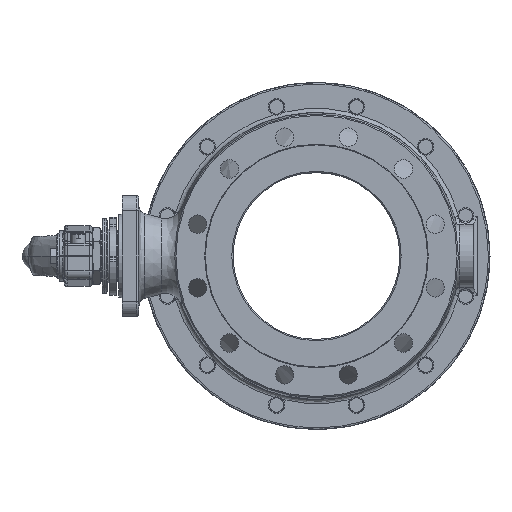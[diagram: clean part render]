
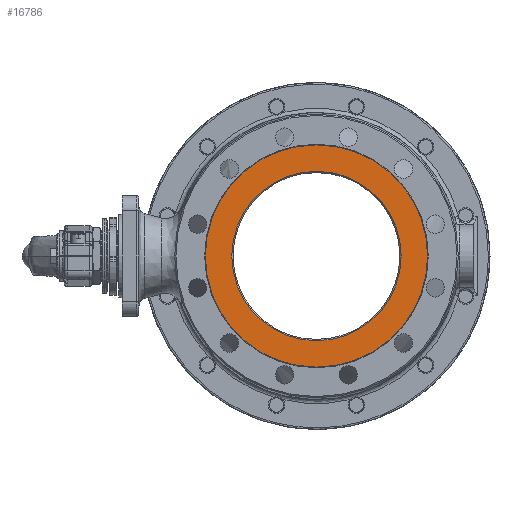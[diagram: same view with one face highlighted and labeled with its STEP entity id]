
A CAD part, left-side view. The second image highlights one B-rep face of the part: STEP entity #16786.
In plain terms, the highlighted planar face has unit normal (-1, 0, 0) as drawn and (0, -1, 0) by its records, which use the part's own axes.
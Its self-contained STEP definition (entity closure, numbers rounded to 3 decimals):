
#375 = DIRECTION ( 'NONE',  ( 0., 1., 0. ) ) ;
#1141 = EDGE_CURVE ( 'NONE', #11809, #8994, #22768, .T. ) ;
#3302 = DIRECTION ( 'NONE',  ( 0., 0., -1. ) ) ;
#3304 = DIRECTION ( 'NONE',  ( 0., 1., 0. ) ) ;
#3336 = FACE_OUTER_BOUND ( 'NONE', #38008, .T. ) ;
#5301 = ORIENTED_EDGE ( 'NONE', *, *, #1141, .T. ) ;
#6448 = CARTESIAN_POINT ( 'NONE',  ( 0., -136.25, -14.5 ) ) ;
#6545 = EDGE_CURVE ( 'NONE', #8994, #11809, #10112, .T. ) ;
#8994 = VERTEX_POINT ( 'NONE', #32513 ) ;
#9708 = DIRECTION ( 'NONE',  ( 0., 0., -1. ) ) ;
#10112 = CIRCLE ( 'NONE', #40537, 101.5 ) ;
#10358 = DIRECTION ( 'NONE',  ( -1., 0., 0. ) ) ;
#10607 = FACE_BOUND ( 'NONE', #27734, .T. ) ;
#11809 = VERTEX_POINT ( 'NONE', #14830 ) ;
#12700 = VERTEX_POINT ( 'NONE', #12816 ) ;
#12816 = CARTESIAN_POINT ( 'NONE',  ( 133.196, -136.25, -14.5 ) ) ;
#14830 = CARTESIAN_POINT ( 'NONE',  ( 0., -136.25, 87. ) ) ;
#15939 = VERTEX_POINT ( 'NONE', #33666 ) ;
#16218 = DIRECTION ( 'NONE',  ( 0., -1., 0. ) ) ;
#16786 = ADVANCED_FACE ( 'NONE', ( #10607, #3336 ), #26403, .T. ) ;
#18095 = ORIENTED_EDGE ( 'NONE', *, *, #19218, .F. ) ;
#19218 = EDGE_CURVE ( 'NONE', #12700, #15939, #36958, .T. ) ;
#22501 = ORIENTED_EDGE ( 'NONE', *, *, #33444, .F. ) ;
#22768 = CIRCLE ( 'NONE', #41817, 101.5 ) ;
#22861 = CARTESIAN_POINT ( 'NONE',  ( 0., -136.25, -14.5 ) ) ;
#23143 = DIRECTION ( 'NONE',  ( 0., 1., 0. ) ) ;
#23260 = CIRCLE ( 'NONE', #35103, 133.196 ) ;
#23690 = CARTESIAN_POINT ( 'NONE',  ( 0., -136.25, -14.5 ) ) ;
#26403 = PLANE ( 'NONE',  #26659 ) ;
#26659 = AXIS2_PLACEMENT_3D ( 'NONE', #39414, #16218, #9708 ) ;
#27734 = EDGE_LOOP ( 'NONE', ( #27954, #5301 ) ) ;
#27954 = ORIENTED_EDGE ( 'NONE', *, *, #6545, .T. ) ;
#32513 = CARTESIAN_POINT ( 'NONE',  ( 0., -136.25, -116. ) ) ;
#33444 = EDGE_CURVE ( 'NONE', #15939, #12700, #23260, .T. ) ;
#33666 = CARTESIAN_POINT ( 'NONE',  ( -133.196, -136.25, -14.5 ) ) ;
#35103 = AXIS2_PLACEMENT_3D ( 'NONE', #22861, #3304, #35933 ) ;
#35646 = CARTESIAN_POINT ( 'NONE',  ( 0., -136.25, -14.5 ) ) ;
#35848 = AXIS2_PLACEMENT_3D ( 'NONE', #23690, #375, #10358 ) ;
#35933 = DIRECTION ( 'NONE',  ( -1., 0., 0. ) ) ;
#36185 = DIRECTION ( 'NONE',  ( 0., 1., 0. ) ) ;
#36331 = DIRECTION ( 'NONE',  ( 0., 0., -1. ) ) ;
#36958 = CIRCLE ( 'NONE', #35848, 133.196 ) ;
#38008 = EDGE_LOOP ( 'NONE', ( #22501, #18095 ) ) ;
#39414 = CARTESIAN_POINT ( 'NONE',  ( 0., -136.25, -81.098 ) ) ;
#40537 = AXIS2_PLACEMENT_3D ( 'NONE', #35646, #23143, #3302 ) ;
#41817 = AXIS2_PLACEMENT_3D ( 'NONE', #6448, #36185, #36331 ) ;
